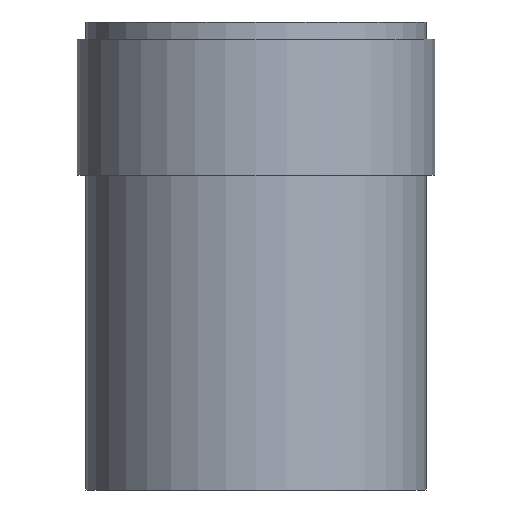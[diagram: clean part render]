
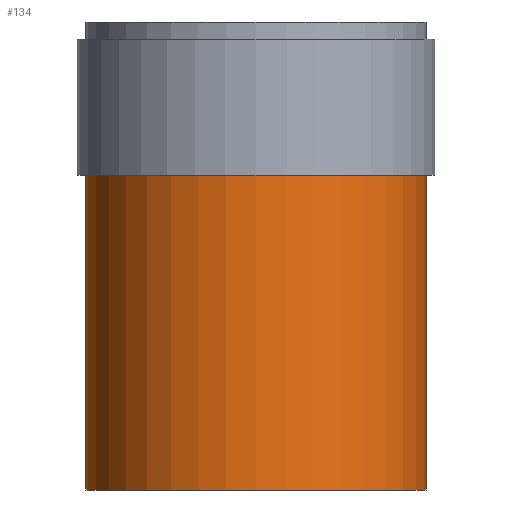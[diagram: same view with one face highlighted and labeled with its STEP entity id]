
A CAD part, front view. The second image highlights one B-rep face of the part: STEP entity #134.
In plain terms, the highlighted cylindrical face has radius 20 mm (diameter 40 mm), a full revolution.
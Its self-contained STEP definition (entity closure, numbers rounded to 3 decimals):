
#24=CYLINDRICAL_SURFACE($,#158,20.);
#35=FACE_BOUND($,#65,.T.);
#47=FACE_OUTER_BOUND($,#64,.T.);
#64=EDGE_LOOP($,(#119));
#65=EDGE_LOOP($,(#120));
#76=CIRCLE($,#151,20.);
#80=CIRCLE($,#159,20.);
#87=VERTEX_POINT($,#226);
#91=VERTEX_POINT($,#238);
#98=EDGE_CURVE($,#87,#87,#76,.T.);
#102=EDGE_CURVE($,#91,#91,#80,.T.);
#119=ORIENTED_EDGE($,*,*,#98,.T.);
#120=ORIENTED_EDGE($,*,*,#102,.F.);
#134=ADVANCED_FACE($,(#47,#35),#24,.T.);
#151=AXIS2_PLACEMENT_3D($,#227,#186,#187);
#158=AXIS2_PLACEMENT_3D($,#237,#200,#201);
#159=AXIS2_PLACEMENT_3D($,#239,#202,#203);
#186=DIRECTION('center_axis',(0.,0.,-1.));
#187=DIRECTION('ref_axis',(-1.,0.,0.));
#200=DIRECTION('center_axis',(0.,0.,1.));
#201=DIRECTION('ref_axis',(-1.,0.,0.));
#202=DIRECTION('center_axis',(0.,0.,-1.));
#203=DIRECTION('ref_axis',(-1.,0.,0.));
#226=CARTESIAN_POINT('',(-20.,0.,37.));
#227=CARTESIAN_POINT('Origin',(0.,0.,37.));
#237=CARTESIAN_POINT('Origin',(0.,0.,0.));
#238=CARTESIAN_POINT('',(20.,0.,0.));
#239=CARTESIAN_POINT('Origin',(0.,0.,0.));
